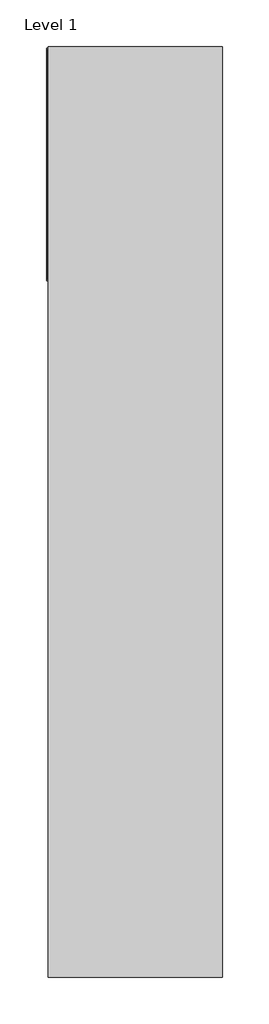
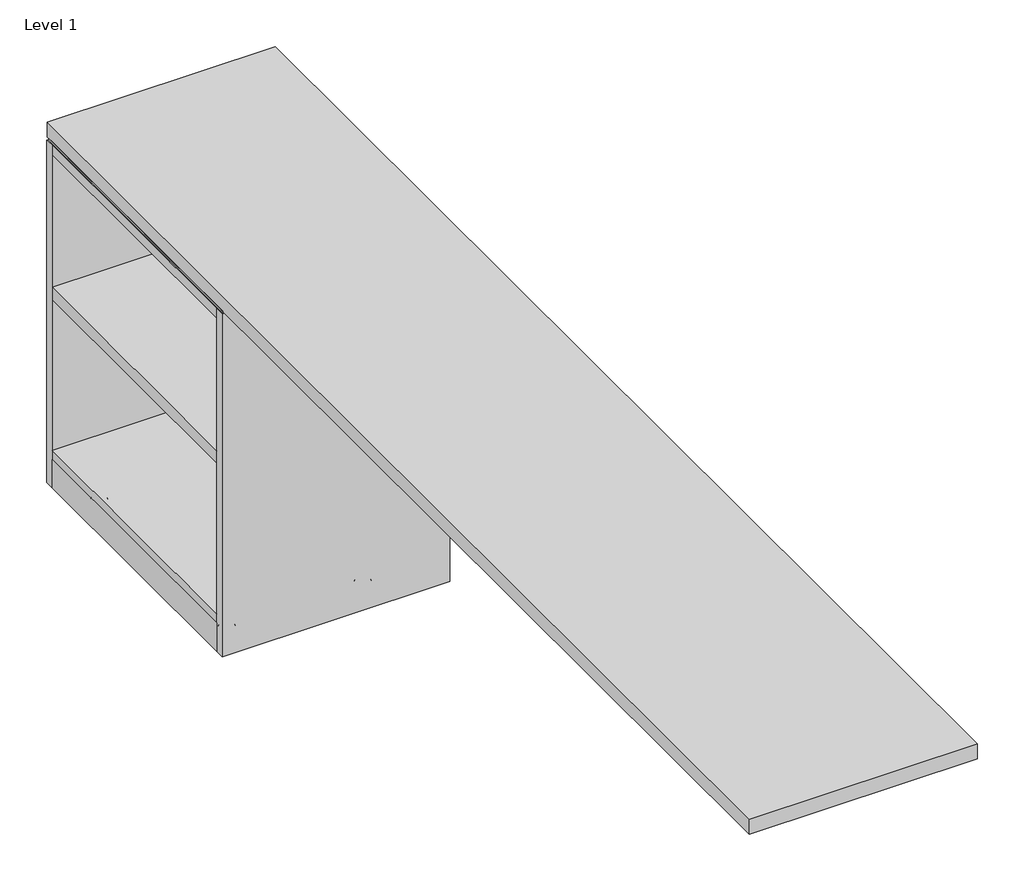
# One storey, incomplete: 2 furniture elements.
"""IFC4 building model written with IfcOpenShell, lengths in millimetres."""

from ifc_helpers import new_model, si_unit, origin, place, context, project, spatial, transform, mapped, element, save
from components import furniture_8e260646, furniture_9cbfd142

model = new_model("IFC4")

# Units and contexts
model_context = context("Model", 3, world=origin())
ifc_project = project(units=[si_unit("LENGTHUNIT", "METRE", prefix="MILLI")], contexts=[model_context])

# Site, building, storey
site = spatial("IfcSite", under=ifc_project)
building = spatial("IfcBuilding", under=site)
storey = spatial("IfcBuildingStorey", under=building, Name="Level 1", Elevation=0.0)

# Furniture
placement = place(None, origin())
furniture_shape = furniture_8e260646(model_context)
element("IfcFurniture", 1, ObjectType="Geiger_GeigerOneCasegoods_LowStorageOpen : Vertical Veneer 24Wx 18Dx28.75H", at=placement, inside=storey, context=model_context, shape_type="MappedRepresentation", body=[
    mapped(furniture_shape, transform((4266.8353277, 3562.8705754, -3.2197168), x_axis=(0.0, -1.0, 0.0), y_axis=(1.0, 0.0, 0.0), z_axis=(0.0, 0.0, 1.0))),
])
furniture_2_shape = furniture_9cbfd142(model_context)
element("IfcFurniture", 2, ObjectType="Geiger_GeigerOneCasegoods_CredenzaTopDeskHeightPlain : Veneer 96Wx 18Dx 1.25H", at=placement, inside=storey, context=model_context, shape_type="MappedRepresentation", body=[
    mapped(furniture_2_shape, transform((3813.5111328, 1128.6145706, 738.7904832), x_axis=(0.0, 1.0, 0.0), y_axis=(-1.0, 0.0, 0.0), z_axis=(0.0, 0.0, 1.0))),
])

save(model, "model.ifc")
